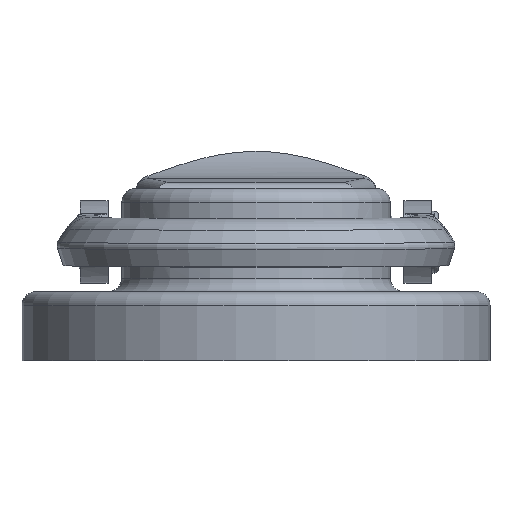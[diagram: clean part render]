
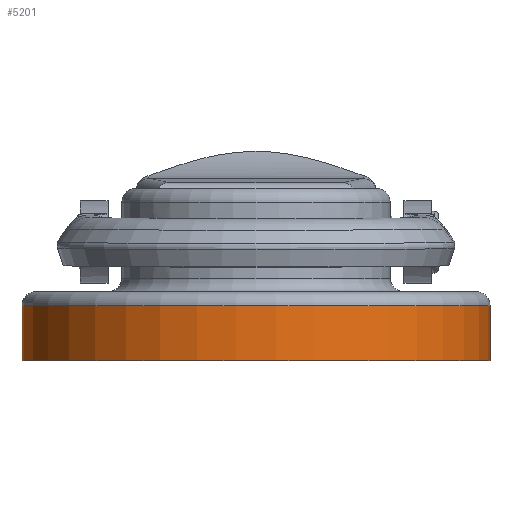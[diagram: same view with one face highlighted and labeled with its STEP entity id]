
A CAD part, left-side view. The second image highlights one B-rep face of the part: STEP entity #5201.
In plain terms, the highlighted cylindrical face has radius 17.008 mm (diameter 34.015 mm), a partial arc.
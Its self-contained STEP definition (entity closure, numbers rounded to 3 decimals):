
#466=LINE('',#7871,#898);
#467=LINE('',#7874,#899);
#898=VECTOR('',#6204,4.);
#899=VECTOR('',#6207,4.);
#1373=FACE_OUTER_BOUND('',#1700,.T.);
#1700=EDGE_LOOP('',(#3678,#3679,#3680,#3681));
#2081=CIRCLE('',#5555,17.008);
#2090=CIRCLE('',#5567,17.008);
#2308=VERTEX_POINT('',#7829);
#2309=VERTEX_POINT('',#7831);
#2320=VERTEX_POINT('',#7870);
#2321=VERTEX_POINT('',#7872);
#2832=EDGE_CURVE('',#2308,#2309,#2081,.T.);
#2845=EDGE_CURVE('',#2308,#2320,#466,.T.);
#2846=EDGE_CURVE('',#2321,#2320,#2090,.T.);
#2847=EDGE_CURVE('',#2309,#2321,#467,.T.);
#3678=ORIENTED_EDGE('',*,*,#2832,.F.);
#3679=ORIENTED_EDGE('',*,*,#2845,.T.);
#3680=ORIENTED_EDGE('',*,*,#2846,.F.);
#3681=ORIENTED_EDGE('',*,*,#2847,.F.);
#5087=CYLINDRICAL_SURFACE('',#5566,17.008);
#5201=ADVANCED_FACE('',(#1373),#5087,.T.);
#5555=AXIS2_PLACEMENT_3D('',#7832,#6178,#6179);
#5566=AXIS2_PLACEMENT_3D('',#7869,#6202,#6203);
#5567=AXIS2_PLACEMENT_3D('',#7873,#6205,#6206);
#6178=DIRECTION('center_axis',(0.,0.,-1.));
#6179=DIRECTION('ref_axis',(1.,-0.031,0.));
#6202=DIRECTION('center_axis',(0.,0.,1.));
#6203=DIRECTION('ref_axis',(1.,-0.031,0.));
#6204=DIRECTION('',(0.,0.,1.));
#6205=DIRECTION('center_axis',(0.,0.,1.));
#6206=DIRECTION('ref_axis',(0.,-1.,0.));
#6207=DIRECTION('',(0.,0.,1.));
#7829=CARTESIAN_POINT('',(17.,-0.969,0.));
#7831=CARTESIAN_POINT('',(-17.,-0.969,0.));
#7832=CARTESIAN_POINT('Origin',(0.,-1.492,0.));
#7869=CARTESIAN_POINT('Origin',(0.,-1.492,0.));
#7870=CARTESIAN_POINT('',(17.,-0.969,4.));
#7871=CARTESIAN_POINT('',(17.,-0.969,0.));
#7872=CARTESIAN_POINT('',(-17.,-0.969,4.));
#7873=CARTESIAN_POINT('Origin',(0.,-1.492,4.));
#7874=CARTESIAN_POINT('',(-17.,-0.969,0.));
